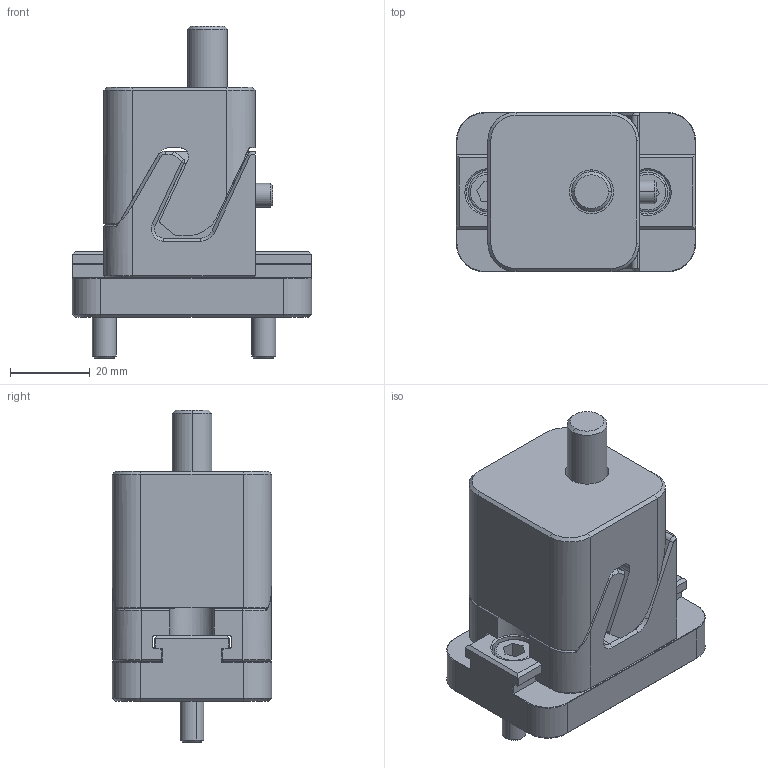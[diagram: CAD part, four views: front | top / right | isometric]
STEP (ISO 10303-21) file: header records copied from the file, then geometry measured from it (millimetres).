
FILE_DESCRIPTION (( 'STEP AP203' ), '1' );
FILE_NAME ('CAMM-300.STEP', '2011-01-19T19:54:08', ( '' ), ( '' ), 'SwSTEP 2.0', 'SolidWorks 2008', '' );
FILE_SCHEMA (( 'CONFIG_CONTROL_DESIGN' ));
Length unit declared in the file: millimetre
Products named in the file (13): SRTM-04; SRTM-04_Body; SHCS_M6X20; SHCS_M10X20; SHCS_M6X22; CAMM-300; CAMM-300-G_GUIDE; CAMM-300-S_SLIDE; CAMM-300-LK37_LOCK; SRTM-04_WAVESPRING; SRTM-04_AXLE; SRTM-04_ROLLER; SRTM-04_SHSB
Assembly tree (14 placements, depth 3):
  CAMM-300
    CAMM-300-G_GUIDE
    CAMM-300-S_SLIDE
    CAMM-300-LK37_LOCK
    SRTM-04
      SRTM-04_SHSB  x2
      SRTM-04_Body
      SRTM-04_WAVESPRING
      SRTM-04_AXLE
      SRTM-04_ROLLER
    SHCS_M6X20  x2
    SHCS_M10X20
    SHCS_M6X22
Bounding box: 60 x 40 x 83.3 mm (x, y, z)
Volume: 93530.2 mm3; surface area: 31661 mm2
Topology: 13 solids, 13 shells, 606 faces, 1526 edges, 954 vertices
Faces by surface type: plane 287, cylinder 185, cone 112, torus 16, bspline 6
Entity records: 18693 total; most frequent: CARTESIAN_POINT 4077, ORIENTED_EDGE 2844, DIRECTION 2660, EDGE_CURVE 1422, AXIS2_PLACEMENT_3D 933, VERTEX_POINT 890, VECTOR 794, LINE 794
